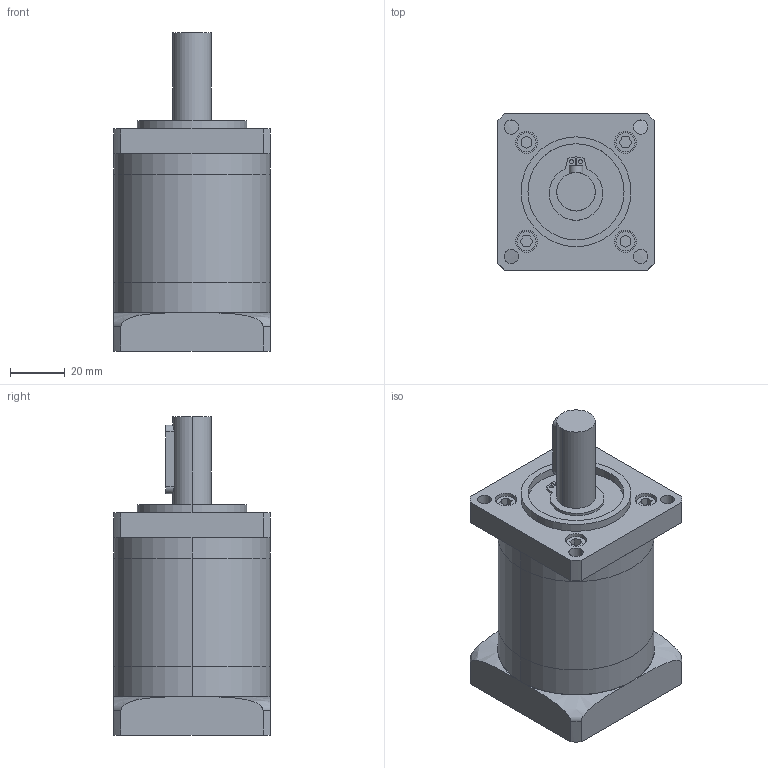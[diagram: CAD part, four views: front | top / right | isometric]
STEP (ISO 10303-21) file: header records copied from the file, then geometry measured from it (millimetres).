
FILE_DESCRIPTION (( 'STEP AP214' ), '1' );
FILE_NAME ('DLF57-L2-( )-J14-B.step', '2020-11-17T06:01:05', ( 'Moofasta' ), ( '' ), 'SwSTEP 2.0', 'SolidWorks 2020', '' );
FILE_SCHEMA (( 'AUTOMOTIVE_DESIGN' ));
Length unit declared in the file: millimetre
Products named in the file (1): DLF57-L2-(    )-J14-B
Bounding box: 57 x 57 x 116 mm (x, y, z)
Volume: 219410.5 mm3; surface area: 46536.4 mm2
Topology: 5 solids, 5 shells, 232 faces, 541 edges, 352 vertices
Faces by surface type: plane 119, cylinder 101, cone 8, bspline 4
Entity records: 7864 total; most frequent: CARTESIAN_POINT 1921, DIRECTION 1165, ORIENTED_EDGE 1066, EDGE_CURVE 533, AXIS2_PLACEMENT_3D 424, VERTEX_POINT 352, VECTOR 317, LINE 317
